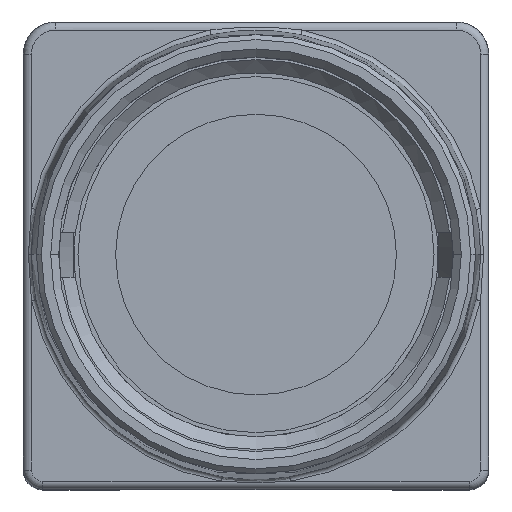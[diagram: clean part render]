
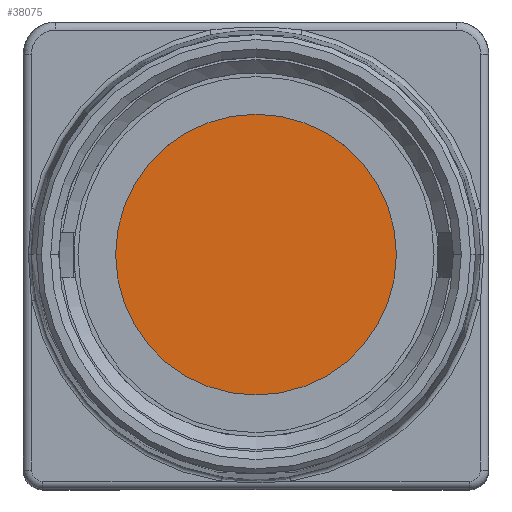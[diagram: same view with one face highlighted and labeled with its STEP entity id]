
A CAD part, top view. The second image highlights one B-rep face of the part: STEP entity #38075.
In plain terms, the highlighted planar face has unit normal (0, 0, 1).
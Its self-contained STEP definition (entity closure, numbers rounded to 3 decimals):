
#8827=CARTESIAN_POINT('',(0.,0.,-1.8));
#8828=DIRECTION('',(0.,0.,-1.));
#8829=DIRECTION('',(1.,0.,0.));
#8830=AXIS2_PLACEMENT_3D('',#8827,#8828,#8829);
#8832=CARTESIAN_POINT('',(0.,0.,-1.8));
#8833=DIRECTION('',(0.,0.,1.));
#8834=DIRECTION('',(1.,0.,0.));
#8835=AXIS2_PLACEMENT_3D('',#8832,#8833,#8834);
#23395=CARTESIAN_POINT('',(8.75,0.,-1.8));
#23396=CARTESIAN_POINT('',(-8.75,0.,-1.8));
#23397=VERTEX_POINT('',#23395);
#23398=VERTEX_POINT('',#23396);
#38065=CARTESIAN_POINT('',(0.,0.,-1.8));
#38066=DIRECTION('',(0.,0.,-1.));
#38067=DIRECTION('',(-1.,0.,0.));
#38068=AXIS2_PLACEMENT_3D('',#38065,#38066,#38067);
#38069=PLANE('',#38068);
#38071=ORIENTED_EDGE('',*,*,#38070,.F.);
#38072=ORIENTED_EDGE('',*,*,#38055,.T.);
#38073=EDGE_LOOP('',(#38071,#38072));
#38074=FACE_OUTER_BOUND('',#38073,.F.);
#38075=ADVANCED_FACE('',(#38074),#38069,.F.);
#8831=CIRCLE('',#8830,8.75);
#8836=CIRCLE('',#8835,8.75);
#38055=EDGE_CURVE('',#23397,#23398,#8831,.T.);
#38070=EDGE_CURVE('',#23397,#23398,#8836,.T.);
